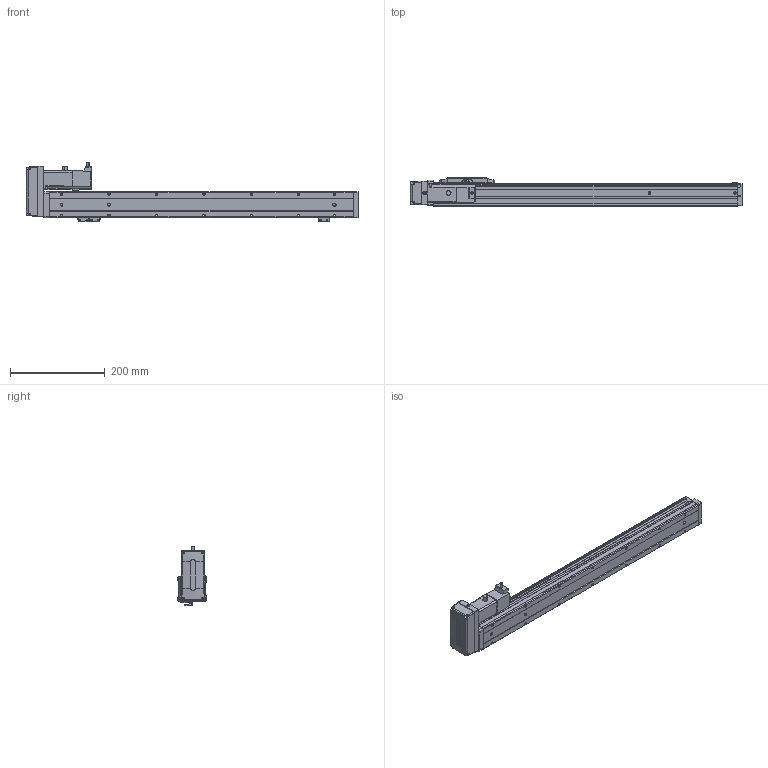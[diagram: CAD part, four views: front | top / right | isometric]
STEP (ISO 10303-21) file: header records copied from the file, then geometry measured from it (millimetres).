
FILE_DESCRIPTION (( 'STEP AP203' ), '1' );
FILE_NAME ('CTH5-L10-S500-BL-C10(¼ò).STEP', '2023-02-04T02:15:17', ( '' ), ( '' ), 'SwSTEP 2.0', 'SolidWorks 2018', '' );
FILE_SCHEMA (( 'CONFIG_CONTROL_DESIGN' ));
Length unit declared in the file: millimetre
Products named in the file (21): CTH100W假蚾啣; hex nuts, style 1-grades ab gb_GB_FASTENER_NUT_SNAB1 M3-N; CTH5耜晚蹟隊; 葩璃 蚾饜极13^CTH8-L10-S50-BM-C40(潠)1; M3｡｣; 内六角圆柱头螺钉M3-2; CTH5菁釱-L640; CTH嫖萇羲壽假蚾啣; CTH5耜晚蹟隊-1; 嫖萇羲壽郪磁1; T10-p1; CTH5ヶ耜啣(潠); CTH5耜蚾欶; CTH5覜茼え; PM-Y45; CTH5綴耜啣; CTH5-L10-S500-BL-C10(潠); 100W萇儂; CTH5-BL-T10_body5; CTH5賑怢-2; CTH5耜蚾蟀諉啣(潠)
Assembly tree (35 placements, depth 3):
  CTH5-L10-S500-BL-C10(潠)
    CTH5綴耜啣
    CTH5賑怢-2
    CTH5ヶ耜啣(潠)
    CTH5菁釱-L640
    CTH5耜晚蹟隊  x2
    CTH5覜茼え
    CTH5耜晚蹟隊-1  x3
    CTH5耜蚾蟀諉啣(潠)
    CTH5耜蚾欶
      CTH5-BL-T10_body5
    100W萇儂
      T10-p1
    CTH100W假蚾啣
    葩璃 蚾饜极13^CTH8-L10-S50-BM-C40(潠)1  x2
      CTH嫖萇羲壽假蚾啣
      PM-Y45
      内六角圆柱头螺钉M3-2
      M3｡｣
      hex nuts, style 1-grades ab gb_GB_FASTENER_NUT_SNAB1 M3-N
    嫖萇羲壽郪磁1
      CTH嫖萇羲壽假蚾啣
      PM-Y45
      M3｡｣  x2
      内六角圆柱头螺钉M3-2  x2
      hex nuts, style 1-grades ab gb_GB_FASTENER_NUT_SNAB1 M3-N  x2
Bounding box: 700 x 60 x 126.31 mm (x, y, z)
Volume: 1765244.7 mm3; surface area: 256358.4 mm2
Topology: 38 solids, 38 shells, 1596 faces, 4009 edges, 2588 vertices
Faces by surface type: plane 881, cylinder 468, cone 191, torus 38, bspline 18
Entity records: 37326 total; most frequent: CARTESIAN_POINT 6937, DIRECTION 5911, ORIENTED_EDGE 5690, EDGE_CURVE 2845, AXIS2_PLACEMENT_3D 2033, LINE 1845, VECTOR 1845, VERTEX_POINT 1832
